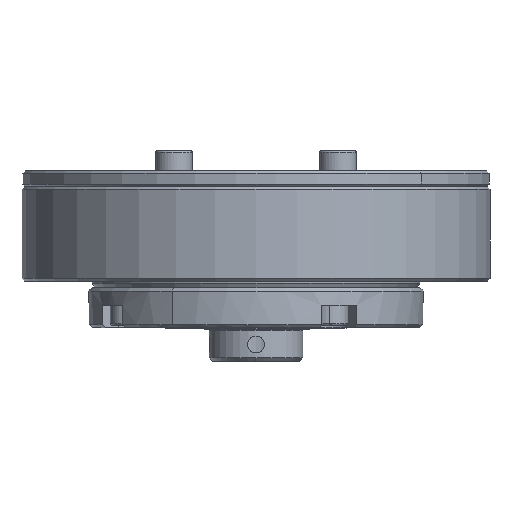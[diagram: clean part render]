
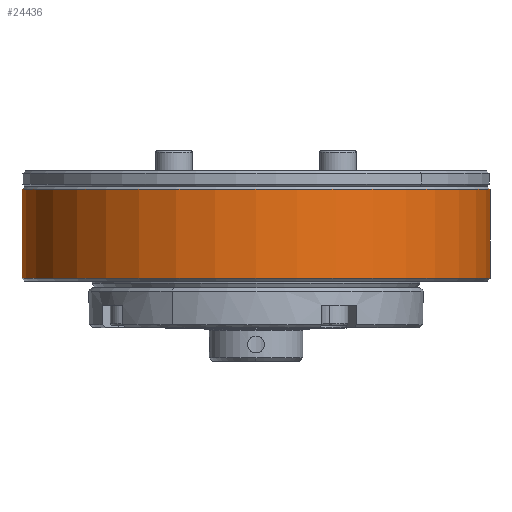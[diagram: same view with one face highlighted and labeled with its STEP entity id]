
A CAD part, front view. The second image highlights one B-rep face of the part: STEP entity #24436.
In plain terms, the highlighted cylindrical face has radius 35 mm (diameter 70 mm), a partial arc.
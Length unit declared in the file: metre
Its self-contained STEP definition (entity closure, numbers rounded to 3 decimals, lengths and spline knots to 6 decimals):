
#162 = CYLINDRICAL_SURFACE ( 'NONE', #13256, 0.035 ) ;
#888 = VERTEX_POINT ( 'NONE', #2046 ) ;
#1246 = CIRCLE ( 'NONE', #19243, 0.035 ) ;
#1467 = EDGE_LOOP ( 'NONE', ( #12039, #20954, #18170, #16923 ) ) ;
#2046 = CARTESIAN_POINT ( 'NONE',  ( 0.035, 0., 0.01995 ) ) ;
#2132 = DIRECTION ( 'NONE',  ( -1., 0., 0. ) ) ;
#2448 = EDGE_CURVE ( 'NONE', #16060, #8965, #19084, .T. ) ;
#3821 = DIRECTION ( 'NONE',  ( 0., 0., 1. ) ) ;
#6531 = CARTESIAN_POINT ( 'NONE',  ( 0., 0., 0.01995 ) ) ;
#8965 = VERTEX_POINT ( 'NONE', #25394 ) ;
#9097 = CARTESIAN_POINT ( 'NONE',  ( -0.035, 0., 0.028392 ) ) ;
#9285 = AXIS2_PLACEMENT_3D ( 'NONE', #25304, #15374, #23726 ) ;
#12039 = ORIENTED_EDGE ( 'NONE', *, *, #18046, .T. ) ;
#13110 = CARTESIAN_POINT ( 'NONE',  ( 0.035, 0., 0.00665 ) ) ;
#13256 = AXIS2_PLACEMENT_3D ( 'NONE', #24118, #14171, #2132 ) ;
#13755 = LINE ( 'NONE', #21759, #17957 ) ;
#14171 = DIRECTION ( 'NONE',  ( 0., 0., 1. ) ) ;
#14533 = DIRECTION ( 'NONE',  ( 0., 0., -1. ) ) ;
#14815 = EDGE_CURVE ( 'NONE', #17335, #888, #13755, .T. ) ;
#14885 = DIRECTION ( 'NONE',  ( 0., 0., 1. ) ) ;
#15374 = DIRECTION ( 'NONE',  ( 0., 0., 1. ) ) ;
#16060 = VERTEX_POINT ( 'NONE', #19174 ) ;
#16923 = ORIENTED_EDGE ( 'NONE', *, *, #2448, .F. ) ;
#17335 = VERTEX_POINT ( 'NONE', #13110 ) ;
#17957 = VECTOR ( 'NONE', #3821, 1. ) ;
#18046 = EDGE_CURVE ( 'NONE', #16060, #17335, #23498, .T. ) ;
#18170 = ORIENTED_EDGE ( 'NONE', *, *, #23179, .T. ) ;
#18215 = DIRECTION ( 'NONE',  ( -1., 0., 0. ) ) ;
#19084 = LINE ( 'NONE', #9097, #24524 ) ;
#19174 = CARTESIAN_POINT ( 'NONE',  ( -0.035, 0., 0.00665 ) ) ;
#19243 = AXIS2_PLACEMENT_3D ( 'NONE', #6531, #14533, #18215 ) ;
#20954 = ORIENTED_EDGE ( 'NONE', *, *, #14815, .T. ) ;
#21759 = CARTESIAN_POINT ( 'NONE',  ( 0.035, 0., 0.028392 ) ) ;
#22295 = FACE_OUTER_BOUND ( 'NONE', #1467, .T. ) ;
#23179 = EDGE_CURVE ( 'NONE', #888, #8965, #1246, .T. ) ;
#23498 = CIRCLE ( 'NONE', #9285, 0.035 ) ;
#23726 = DIRECTION ( 'NONE',  ( -1., 0., 0. ) ) ;
#24118 = CARTESIAN_POINT ( 'NONE',  ( 0., 0., 0.028392 ) ) ;
#24436 = ADVANCED_FACE ( 'NONE', ( #22295 ), #162, .T. ) ;
#24524 = VECTOR ( 'NONE', #14885, 1. ) ;
#25304 = CARTESIAN_POINT ( 'NONE',  ( 0., 0., 0.00665 ) ) ;
#25394 = CARTESIAN_POINT ( 'NONE',  ( -0.035, 0., 0.01995 ) ) ;
